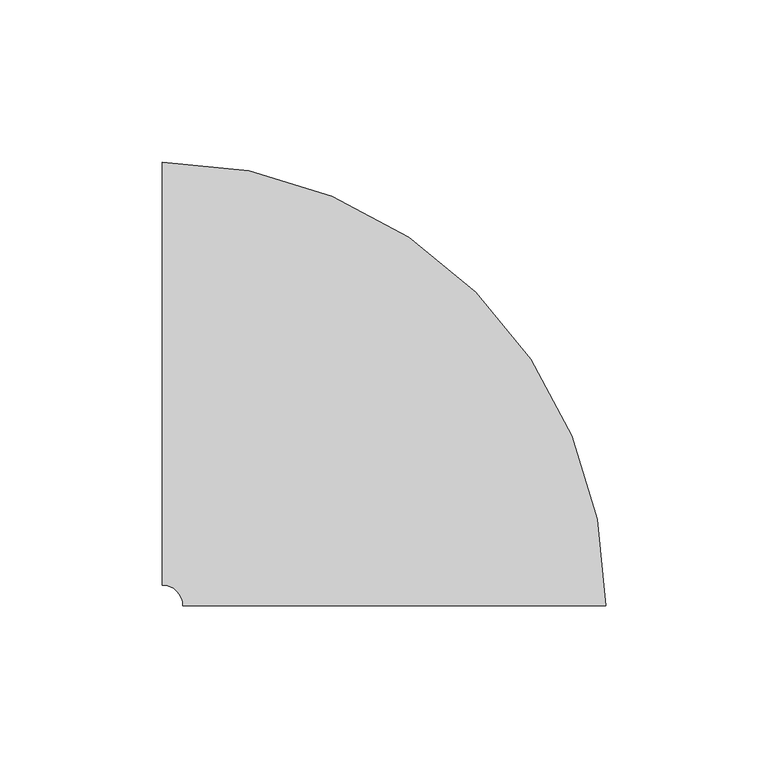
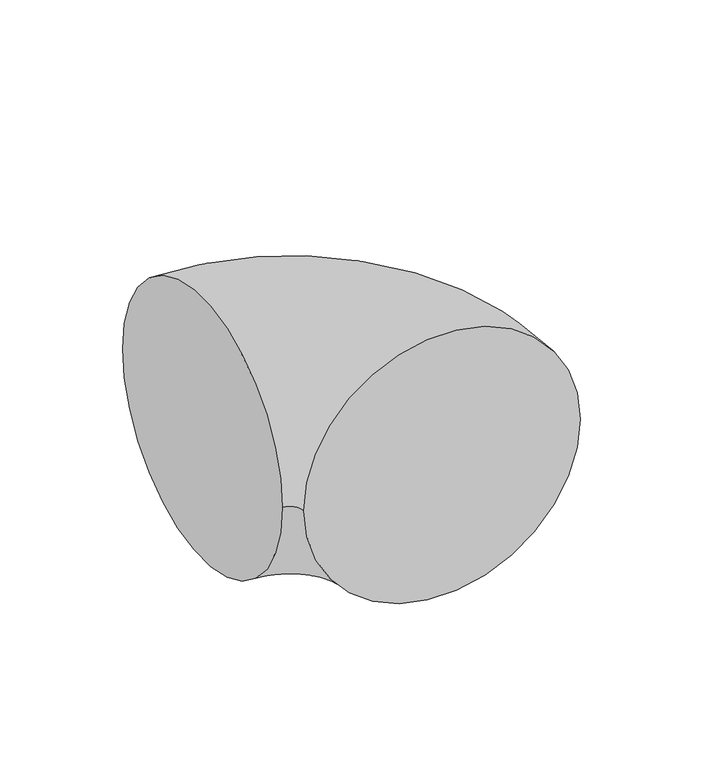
"""IFC4 building model written with IfcOpenShell, lengths in millimetres: pipe fitting geometry, M_Codo - Genérico : Estándar."""

from ifc_helpers import new_model, si_unit, point, frame, origin, place, context, project, spatial, circle_curve, ellipse_curve, trimmed, source, transform, mapped, element, save
from ifc_brep_helpers import plane_surface, revolved_surface, advanced_brep


def pipe_fitting_f4737d89(model_context):
    return source(origin(), model_context, "Body", "AdvancedBrep", [
        advanced_brep(
        [(-71.4303573, 65.0875, 0.0), (-71.4303573, -65.0875, 0.0), (65.094642, -71.4238489, 0.0), (-65.0803574, -71.4368651, 0.0)],
        [
            (0, 1, circle_curve(frame((-71.4303573, 0.0, 0.0), z_axis=(-1.0, 0.0, 0.0), x_axis=(0.0, -1.0, 0.0)), 65.0875)),
            (1, 0, circle_curve(frame((-71.4303573, 0.0, 0.0), z_axis=(-1.0, 0.0, 0.0), x_axis=(0.0, -1.0, 0.0)), 65.0875)),
            (2, 3, circle_curve(frame((0.0071423, -71.430357, 0.0), z_axis=(9.999000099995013e-05, -0.9999999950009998, 0.0), x_axis=(-0.9999999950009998, -9.999000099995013e-05, 0.0)), 65.0875)),
            (3, 2, circle_curve(frame((0.0071423, -71.430357, 0.0), z_axis=(9.999000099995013e-05, -0.9999999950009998, 0.0), x_axis=(-0.9999999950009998, -9.999000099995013e-05, 0.0)), 65.0875)),
            (2, 0, circle_curve(frame((-71.4303573, -71.4375, 0.0), z_axis=(0.0, 0.0, 1.0), x_axis=(0.0, 1.0, 0.0)), 136.525)),
            (1, 3, circle_curve(frame((-71.4303573, -71.4375, 0.0), z_axis=(0.0, 0.0, -1.0), x_axis=(0.0, 1.0, 0.0)), 6.35)),
        ],
        [
            plane_surface(frame((-71.4303573, 0.0, 0.0), z_axis=(-1.0, 0.0, 0.0), x_axis=(0.0, 0.0, 1.0))),
            plane_surface(frame((0.0071423, -71.430357, 0.0), z_axis=(9.999000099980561e-05, -0.9999999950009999, 0.0), x_axis=(0.0, 0.0, 1.0))),
            revolved_surface(trimmed(ellipse_curve(frame((-71.4303573, 0.0, 0.0), z_axis=(1.0, 0.0, 0.0), x_axis=(0.0, -1.0, 0.0)), 65.0875, 65.0875), [point((-71.4303573, 65.0875, 0.0))], [point((-71.4303573, -65.0875, 0.0))], True, "CARTESIAN"), (-71.4303573, -71.4375, 0.0), (0.0, 0.0, 1.0)),
            revolved_surface(trimmed(ellipse_curve(frame((-71.4303573, 0.0, 0.0), z_axis=(1.0, 0.0, 0.0), x_axis=(0.0, -1.0, 0.0)), 65.0875, 65.0875), [point((-71.4303573, -65.0875, 0.0))], [point((-71.4303573, 65.0875, 0.0))], True, "CARTESIAN"), (-71.4303573, -71.4375, 0.0), (0.0, 0.0, 1.0)),
        ],
        [
            (0, [[1, 2]]),
            (1, [[3, 4]]),
            (2, [[-3, 5, -2, 6]]),
            (3, [[-4, -6, -1, -5]]),
        ],
    ),
    ])


if __name__ == "__main__":
    model = new_model("IFC4")
    model_context = context("Model", 3, world=origin())
    ifc_project = project(units=[si_unit("LENGTHUNIT", "METRE", prefix="MILLI")], contexts=[model_context])
    site = spatial("IfcSite", under=ifc_project)
    building = spatial("IfcBuilding", under=site)
    placement = place(None, origin())
    pipe_fitting_shape = pipe_fitting_f4737d89(model_context)
    element("IfcPipeFitting", 1, ObjectType="M_Codo - Genérico : Estándar", at=placement, inside=building, context=model_context, shape_type="MappedRepresentation", body=[
        mapped(pipe_fitting_shape, transform((0.0, 0.0, 0.0), x_axis=(1.0, 0.0, 0.0), y_axis=(0.0, 1.0, 0.0), z_axis=(0.0, 0.0, 1.0))),
    ])
    save(model, "model.ifc")
